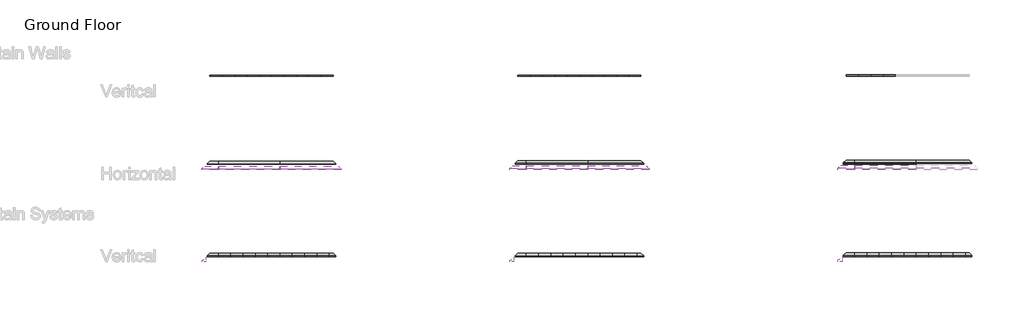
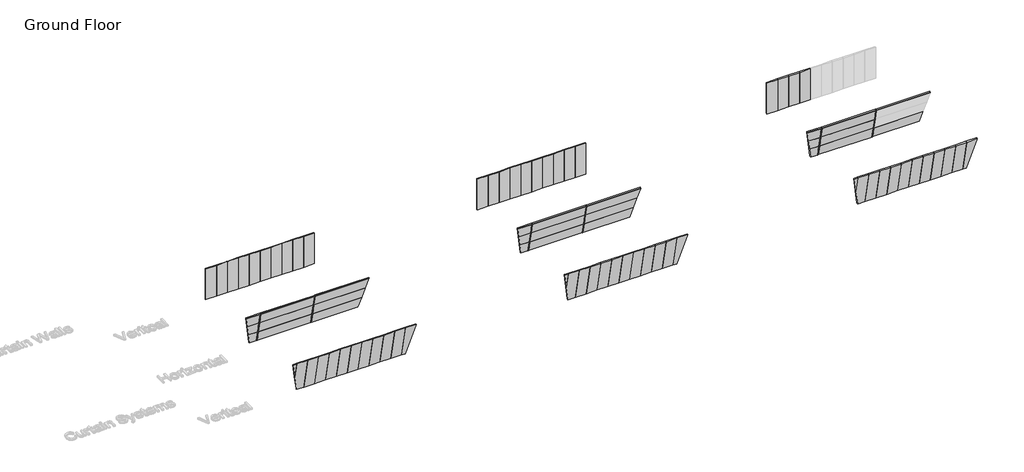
# One storey, part 1 of 7: 94 plates, 24 members.
"""IFC4 building model written with IfcOpenShell, lengths in millimetres."""

from ifc_helpers import new_model, si_unit, origin, place, context, project, spatial, transform, mapped, element, save
from components import rectangular_mullion_pi_mullion_20gap_50depth_70width_142a5764, rectangular_mullion_pi_mullion_20gap_50depth_70width_9113199f, system_panel_276d5853, system_panel_b8428c64, system_panel_244e55d7, system_panel_0e52adfc, system_panel_58bfb996, system_panel_810aceff, system_panel_dae109d1, system_panel_3fc5bacf, system_panel_61ef77c3, system_panel_4a560e26, system_panel_8fc2fa07, system_panel_ffccc5ed, system_panel_a9172ad6, system_panel_276398e4, system_panel_e92a4fb4, system_panel_2d20ec1c, system_panel_2103b3a6, system_panel_ce3216b0, system_panel_0e282976, system_panel_e06f3d7a, system_panel_697395f3, system_panel_573d2014, system_panel_0390bdc7, system_panel_17cfb40a, system_panel_ebee40ae, system_panel_bdb03481, system_panel_a81ec092, system_panel_9f1cbbff, system_panel_110e811f, system_panel_6bba82fc, system_panel_1b485f75, system_panel_cb7dd1a5, system_panel_68652501, system_panel_b922ef73, system_panel_e1c3cb3b, system_panel_d6a9731a, system_panel_ae01b499, system_panel_da9f9245, system_panel_4db2f891, system_panel_0650ad8c, system_panel_78934fff, system_panel_36b0335f, system_panel_72fa3ca7

model = new_model("IFC4")

# Units and contexts
model_context = context("Model", 3, world=origin())
ifc_project = project(units=[si_unit("LENGTHUNIT", "METRE", prefix="MILLI")], contexts=[model_context])

# Site, building, storey
site = spatial("IfcSite", under=ifc_project)
building = spatial("IfcBuilding", under=site)
storey = spatial("IfcBuildingStorey", under=building, Name="Ground Floor", Elevation=0.0)

# Members
placement = place(None, origin())
rectangular_mullion_pi_mullion_20gap_50depth_70width_shape = rectangular_mullion_pi_mullion_20gap_50depth_70width_142a5764(model_context)
element("IfcMember", 1, ObjectType="Rectangular Mullion : PI-Mullion - 20Gap-50Depth-70Width", at=placement, inside=storey, context=model_context, shape_type="MappedRepresentation", body=[
    mapped(rectangular_mullion_pi_mullion_20gap_50depth_70width_shape, transform((-44187.533429, -11236.337246, 3600.0), x_axis=(-1.0, 0.0, 0.0), y_axis=(0.0, -0.978268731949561, -0.20734099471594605), z_axis=(0.0, -0.20734099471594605, 0.978268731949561))),
])
element("IfcMember", 2, ObjectType="Rectangular Mullion : PI-Mullion - 20Gap-50Depth-70Width", at=placement, inside=storey, context=model_context, shape_type="MappedRepresentation", body=[
    mapped(rectangular_mullion_pi_mullion_20gap_50depth_70width_shape, transform((-50187.533429, -11236.337246, 3600.0), x_axis=(-1.0, 0.0, 0.0), y_axis=(0.0, -0.978268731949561, -0.20734099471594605), z_axis=(0.0, -0.20734099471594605, 0.978268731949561))),
])
element("IfcMember", 3, ObjectType="Rectangular Mullion : PI-Mullion - 20Gap-50Depth-70Width", at=placement, inside=storey, context=model_context, shape_type="MappedRepresentation", body=[
    mapped(rectangular_mullion_pi_mullion_20gap_50depth_70width_shape, transform((17812.466571, -11236.337246, 3600.0), x_axis=(-1.0, 0.0, 0.0), y_axis=(0.0, -0.978268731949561, -0.20734099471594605), z_axis=(0.0, -0.20734099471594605, 0.978268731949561))),
])
element("IfcMember", 4, ObjectType="Rectangular Mullion : PI-Mullion - 20Gap-50Depth-70Width", at=placement, inside=storey, context=model_context, shape_type="MappedRepresentation", body=[
    mapped(rectangular_mullion_pi_mullion_20gap_50depth_70width_shape, transform((11812.466571, -11236.337246, 3600.0), x_axis=(-1.0, 0.0, 0.0), y_axis=(0.0, -0.978268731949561, -0.20734099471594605), z_axis=(0.0, -0.20734099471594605, 0.978268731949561))),
])
element("IfcMember", 5, ObjectType="Rectangular Mullion : PI-Mullion - 20Gap-50Depth-70Width", at=placement, inside=storey, context=model_context, shape_type="MappedRepresentation", body=[
    mapped(rectangular_mullion_pi_mullion_20gap_50depth_70width_shape, transform((-14187.533429, -11236.337246, 3600.0), x_axis=(-1.0, 0.0, 0.0), y_axis=(0.0, -0.978268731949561, -0.20734099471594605), z_axis=(0.0, -0.20734099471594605, 0.978268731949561))),
])
element("IfcMember", 6, ObjectType="Rectangular Mullion : PI-Mullion - 20Gap-50Depth-70Width", at=placement, inside=storey, context=model_context, shape_type="MappedRepresentation", body=[
    mapped(rectangular_mullion_pi_mullion_20gap_50depth_70width_shape, transform((-20187.533429, -11236.337246, 3600.0), x_axis=(-1.0, 0.0, 0.0), y_axis=(0.0, -0.978268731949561, -0.20734099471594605), z_axis=(0.0, -0.20734099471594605, 0.978268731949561))),
])
rectangular_mullion_pi_mullion_20gap_50depth_70width_2_shape = rectangular_mullion_pi_mullion_20gap_50depth_70width_9113199f(model_context)
element("IfcMember", 7, ObjectType="Rectangular Mullion : PI-Mullion - 20Gap-50Depth-70Width", at=placement, inside=storey, context=model_context, shape_type="MappedRepresentation", body=[
    mapped(rectangular_mullion_pi_mullion_20gap_50depth_70width_2_shape, transform((-44187.533429, -10722.1377115, 1173.9224783), x_axis=(-1.0, 0.0, 0.0), y_axis=(0.0, -0.9782687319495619, -0.207340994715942), z_axis=(0.0, -0.207340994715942, 0.9782687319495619))),
])
element("IfcMember", 8, ObjectType="Rectangular Mullion : PI-Mullion - 20Gap-50Depth-70Width", at=placement, inside=storey, context=model_context, shape_type="MappedRepresentation", body=[
    mapped(rectangular_mullion_pi_mullion_20gap_50depth_70width_2_shape, transform((-50187.533429, -10722.1377115, 1173.9224783), x_axis=(-1.0, 0.0, 0.0), y_axis=(0.0, -0.9782687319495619, -0.207340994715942), z_axis=(0.0, -0.207340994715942, 0.9782687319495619))),
])
element("IfcMember", 9, ObjectType="Rectangular Mullion : PI-Mullion - 20Gap-50Depth-70Width", at=placement, inside=storey, context=model_context, shape_type="MappedRepresentation", body=[
    mapped(rectangular_mullion_pi_mullion_20gap_50depth_70width_2_shape, transform((17812.466571, -10722.1377115, 1173.9224783), x_axis=(-1.0, 0.0, 0.0), y_axis=(0.0, -0.9782687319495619, -0.207340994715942), z_axis=(0.0, -0.207340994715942, 0.9782687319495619))),
])
element("IfcMember", 10, ObjectType="Rectangular Mullion : PI-Mullion - 20Gap-50Depth-70Width", at=placement, inside=storey, context=model_context, shape_type="MappedRepresentation", body=[
    mapped(rectangular_mullion_pi_mullion_20gap_50depth_70width_2_shape, transform((11812.466571, -10722.1377115, 1173.9224783), x_axis=(-1.0, 0.0, 0.0), y_axis=(0.0, -0.9782687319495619, -0.207340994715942), z_axis=(0.0, -0.207340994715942, 0.9782687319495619))),
])
element("IfcMember", 11, ObjectType="Rectangular Mullion : PI-Mullion - 20Gap-50Depth-70Width", at=placement, inside=storey, context=model_context, shape_type="MappedRepresentation", body=[
    mapped(rectangular_mullion_pi_mullion_20gap_50depth_70width_2_shape, transform((-14187.533429, -10722.1377115, 1173.9224783), x_axis=(-1.0, 0.0, 0.0), y_axis=(0.0, -0.9782687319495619, -0.207340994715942), z_axis=(0.0, -0.207340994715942, 0.9782687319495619))),
])
element("IfcMember", 12, ObjectType="Rectangular Mullion : PI-Mullion - 20Gap-50Depth-70Width", at=placement, inside=storey, context=model_context, shape_type="MappedRepresentation", body=[
    mapped(rectangular_mullion_pi_mullion_20gap_50depth_70width_2_shape, transform((-20187.533429, -10722.1377115, 1173.9224783), x_axis=(-1.0, 0.0, 0.0), y_axis=(0.0, -0.9782687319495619, -0.207340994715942), z_axis=(0.0, -0.207340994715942, 0.9782687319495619))),
])
element("IfcMember", 13, ObjectType="Rectangular Mullion : PI-Mullion - 20Gap-50Depth-70Width", at=placement, inside=storey, context=model_context, shape_type="MappedRepresentation", body=[
    mapped(rectangular_mullion_pi_mullion_20gap_50depth_70width_2_shape, transform((-44187.533429, -10970.9469052, 2347.8449567), x_axis=(-1.0, 0.0, 0.0), y_axis=(0.0, -0.9782687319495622, -0.20734099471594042), z_axis=(0.0, -0.20734099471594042, 0.9782687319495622))),
])
element("IfcMember", 14, ObjectType="Rectangular Mullion : PI-Mullion - 20Gap-50Depth-70Width", at=placement, inside=storey, context=model_context, shape_type="MappedRepresentation", body=[
    mapped(rectangular_mullion_pi_mullion_20gap_50depth_70width_2_shape, transform((-50187.533429, -10970.9469052, 2347.8449567), x_axis=(-1.0, 0.0, 0.0), y_axis=(0.0, -0.9782687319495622, -0.20734099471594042), z_axis=(0.0, -0.20734099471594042, 0.9782687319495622))),
])
element("IfcMember", 15, ObjectType="Rectangular Mullion : PI-Mullion - 20Gap-50Depth-70Width", at=placement, inside=storey, context=model_context, shape_type="MappedRepresentation", body=[
    mapped(rectangular_mullion_pi_mullion_20gap_50depth_70width_2_shape, transform((-44187.533429, -11219.7560988, 3521.767435), x_axis=(-1.0, 0.0, 0.0), y_axis=(0.0, -0.9782687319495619, -0.20734099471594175), z_axis=(0.0, -0.20734099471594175, 0.9782687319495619))),
])
element("IfcMember", 16, ObjectType="Rectangular Mullion : PI-Mullion - 20Gap-50Depth-70Width", at=placement, inside=storey, context=model_context, shape_type="MappedRepresentation", body=[
    mapped(rectangular_mullion_pi_mullion_20gap_50depth_70width_2_shape, transform((-50187.533429, -11219.7560988, 3521.767435), x_axis=(-1.0, 0.0, 0.0), y_axis=(0.0, -0.9782687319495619, -0.20734099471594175), z_axis=(0.0, -0.20734099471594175, 0.9782687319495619))),
])
element("IfcMember", 17, ObjectType="Rectangular Mullion : PI-Mullion - 20Gap-50Depth-70Width", at=placement, inside=storey, context=model_context, shape_type="MappedRepresentation", body=[
    mapped(rectangular_mullion_pi_mullion_20gap_50depth_70width_2_shape, transform((17812.466571, -10970.9469052, 2347.8449567), x_axis=(-1.0, 0.0, 0.0), y_axis=(0.0, -0.9782687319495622, -0.20734099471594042), z_axis=(0.0, -0.20734099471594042, 0.9782687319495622))),
])
element("IfcMember", 18, ObjectType="Rectangular Mullion : PI-Mullion - 20Gap-50Depth-70Width", at=placement, inside=storey, context=model_context, shape_type="MappedRepresentation", body=[
    mapped(rectangular_mullion_pi_mullion_20gap_50depth_70width_2_shape, transform((11812.466571, -10970.9469052, 2347.8449567), x_axis=(-1.0, 0.0, 0.0), y_axis=(0.0, -0.9782687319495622, -0.20734099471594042), z_axis=(0.0, -0.20734099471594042, 0.9782687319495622))),
])
element("IfcMember", 19, ObjectType="Rectangular Mullion : PI-Mullion - 20Gap-50Depth-70Width", at=placement, inside=storey, context=model_context, shape_type="MappedRepresentation", body=[
    mapped(rectangular_mullion_pi_mullion_20gap_50depth_70width_2_shape, transform((17812.466571, -11219.7560988, 3521.767435), x_axis=(-1.0, 0.0, 0.0), y_axis=(0.0, -0.9782687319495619, -0.20734099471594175), z_axis=(0.0, -0.20734099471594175, 0.9782687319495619))),
])
element("IfcMember", 20, ObjectType="Rectangular Mullion : PI-Mullion - 20Gap-50Depth-70Width", at=placement, inside=storey, context=model_context, shape_type="MappedRepresentation", body=[
    mapped(rectangular_mullion_pi_mullion_20gap_50depth_70width_2_shape, transform((11812.466571, -11219.7560988, 3521.767435), x_axis=(-1.0, 0.0, 0.0), y_axis=(0.0, -0.9782687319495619, -0.20734099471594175), z_axis=(0.0, -0.20734099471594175, 0.9782687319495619))),
])
element("IfcMember", 21, ObjectType="Rectangular Mullion : PI-Mullion - 20Gap-50Depth-70Width", at=placement, inside=storey, context=model_context, shape_type="MappedRepresentation", body=[
    mapped(rectangular_mullion_pi_mullion_20gap_50depth_70width_2_shape, transform((-14187.533429, -10970.9469052, 2347.8449567), x_axis=(-1.0, 0.0, 0.0), y_axis=(0.0, -0.9782687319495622, -0.20734099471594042), z_axis=(0.0, -0.20734099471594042, 0.9782687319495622))),
])
element("IfcMember", 22, ObjectType="Rectangular Mullion : PI-Mullion - 20Gap-50Depth-70Width", at=placement, inside=storey, context=model_context, shape_type="MappedRepresentation", body=[
    mapped(rectangular_mullion_pi_mullion_20gap_50depth_70width_2_shape, transform((-20187.533429, -10970.9469052, 2347.8449567), x_axis=(-1.0, 0.0, 0.0), y_axis=(0.0, -0.9782687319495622, -0.20734099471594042), z_axis=(0.0, -0.20734099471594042, 0.9782687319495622))),
])
element("IfcMember", 23, ObjectType="Rectangular Mullion : PI-Mullion - 20Gap-50Depth-70Width", at=placement, inside=storey, context=model_context, shape_type="MappedRepresentation", body=[
    mapped(rectangular_mullion_pi_mullion_20gap_50depth_70width_2_shape, transform((-14187.533429, -11219.7560988, 3521.767435), x_axis=(-1.0, 0.0, 0.0), y_axis=(0.0, -0.9782687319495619, -0.20734099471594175), z_axis=(0.0, -0.20734099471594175, 0.9782687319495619))),
])
element("IfcMember", 24, ObjectType="Rectangular Mullion : PI-Mullion - 20Gap-50Depth-70Width", at=placement, inside=storey, context=model_context, shape_type="MappedRepresentation", body=[
    mapped(rectangular_mullion_pi_mullion_20gap_50depth_70width_2_shape, transform((-20187.533429, -11219.7560988, 3521.767435), x_axis=(-1.0, 0.0, 0.0), y_axis=(0.0, -0.9782687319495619, -0.20734099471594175), z_axis=(0.0, -0.20734099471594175, 0.9782687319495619))),
])

# Plates
system_panel_shape = system_panel_276d5853(model_context)
element("IfcPlate", 25, ObjectType="System Panel : Equitilt 75mm Vertical - Plain RHEA - MW", at=placement, inside=storey, context=model_context, shape_type="MappedRepresentation", body=[
    mapped(system_panel_shape, transform((-38797.533429, -19473.3285178, 0.0), x_axis=(-1.0, 0.0, 0.0), y_axis=(0.0, -0.978268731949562, -0.20734099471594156), z_axis=(0.0, -0.20734099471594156, 0.978268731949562))),
])
system_panel_2_shape = system_panel_b8428c64(model_context)
element("IfcPlate", 26, ObjectType="System Panel : Equitilt 75mm Vertical - Plain RHEA - MW", at=placement, inside=storey, context=model_context, shape_type="MappedRepresentation", body=[
    mapped(system_panel_2_shape, transform((-39997.533429, -19473.3285178, 0.0), x_axis=(-1.0, 0.0, 0.0), y_axis=(0.0, -0.978268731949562, -0.20734099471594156), z_axis=(0.0, -0.20734099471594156, 0.978268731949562))),
])
element("IfcPlate", 27, ObjectType="System Panel : Equitilt 75mm Vertical - Plain RHEA - MW", at=placement, inside=storey, context=model_context, shape_type="MappedRepresentation", body=[
    mapped(system_panel_2_shape, transform((-41197.533429, -19473.3285178, 0.0), x_axis=(-1.0, 0.0, 0.0), y_axis=(0.0, -0.978268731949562, -0.20734099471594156), z_axis=(0.0, -0.20734099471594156, 0.978268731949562))),
])
element("IfcPlate", 28, ObjectType="System Panel : Equitilt 75mm Vertical - Plain RHEA - MW", at=placement, inside=storey, context=model_context, shape_type="MappedRepresentation", body=[
    mapped(system_panel_2_shape, transform((-42397.533429, -19473.3285178, 0.0), x_axis=(-1.0, 0.0, 0.0), y_axis=(0.0, -0.978268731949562, -0.20734099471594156), z_axis=(0.0, -0.20734099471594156, 0.978268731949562))),
])
element("IfcPlate", 29, ObjectType="System Panel : Equitilt 75mm Vertical - Plain RHEA - MW", at=placement, inside=storey, context=model_context, shape_type="MappedRepresentation", body=[
    mapped(system_panel_2_shape, transform((-43597.533429, -19473.3285178, 0.0), x_axis=(-1.0, 0.0, 0.0), y_axis=(0.0, -0.978268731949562, -0.20734099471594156), z_axis=(0.0, -0.20734099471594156, 0.978268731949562))),
])
element("IfcPlate", 30, ObjectType="System Panel : Equitilt 75mm Vertical - Plain RHEA - MW", at=placement, inside=storey, context=model_context, shape_type="MappedRepresentation", body=[
    mapped(system_panel_2_shape, transform((-44797.533429, -19473.3285178, 0.0), x_axis=(-1.0, 0.0, 0.0), y_axis=(0.0, -0.978268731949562, -0.20734099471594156), z_axis=(0.0, -0.20734099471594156, 0.978268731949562))),
])
element("IfcPlate", 31, ObjectType="System Panel : Equitilt 75mm Vertical - Plain RHEA - MW", at=placement, inside=storey, context=model_context, shape_type="MappedRepresentation", body=[
    mapped(system_panel_2_shape, transform((-45997.533429, -19473.3285178, 0.0), x_axis=(-1.0, 0.0, 0.0), y_axis=(0.0, -0.978268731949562, -0.20734099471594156), z_axis=(0.0, -0.20734099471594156, 0.978268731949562))),
])
element("IfcPlate", 32, ObjectType="System Panel : Equitilt 75mm Vertical - Plain RHEA - MW", at=placement, inside=storey, context=model_context, shape_type="MappedRepresentation", body=[
    mapped(system_panel_2_shape, transform((-47197.533429, -19473.3285178, 0.0), x_axis=(-1.0, 0.0, 0.0), y_axis=(0.0, -0.978268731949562, -0.20734099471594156), z_axis=(0.0, -0.20734099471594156, 0.978268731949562))),
])
element("IfcPlate", 33, ObjectType="System Panel : Equitilt 75mm Vertical - Plain RHEA - MW", at=placement, inside=storey, context=model_context, shape_type="MappedRepresentation", body=[
    mapped(system_panel_2_shape, transform((-48397.533429, -19473.3285178, 0.0), x_axis=(-1.0, 0.0, 0.0), y_axis=(0.0, -0.978268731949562, -0.20734099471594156), z_axis=(0.0, -0.20734099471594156, 0.978268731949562))),
])
element("IfcPlate", 34, ObjectType="System Panel : Equitilt 75mm Vertical - Plain RHEA - MW", at=placement, inside=storey, context=model_context, shape_type="MappedRepresentation", body=[
    mapped(system_panel_2_shape, transform((-49597.533429, -19473.3285178, 0.0), x_axis=(-1.0, 0.0, 0.0), y_axis=(0.0, -0.978268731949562, -0.20734099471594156), z_axis=(0.0, -0.20734099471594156, 0.978268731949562))),
])
system_panel_3_shape = system_panel_244e55d7(model_context)
element("IfcPlate", 35, ObjectType="System Panel : Equitilt 75mm Vertical - Plain RHEA - MW", at=placement, inside=storey, context=model_context, shape_type="MappedRepresentation", body=[
    mapped(system_panel_3_shape, transform((-50797.533429, -19473.3285178, 0.0), x_axis=(-1.0, 0.0, 0.0), y_axis=(0.0, -0.978268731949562, -0.20734099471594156), z_axis=(0.0, -0.20734099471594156, 0.978268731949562))),
])
system_panel_4_shape = system_panel_0e52adfc(model_context)
element("IfcPlate", 36, ObjectType="System Panel : Equitilt 75mm Vertical - Plain RHEA - MW", at=placement, inside=storey, context=model_context, shape_type="MappedRepresentation", body=[
    mapped(system_panel_4_shape, transform((-51597.533429, -19854.8328819, 1800.0), x_axis=(-1.0, 0.0, 0.0), y_axis=(0.0, -0.978268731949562, -0.20734099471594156), z_axis=(0.0, -0.20734099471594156, 0.978268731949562))),
])
system_panel_5_shape = system_panel_58bfb996(model_context)
element("IfcPlate", 37, ObjectType="System Panel : Equitilt 100mm Horizontal - Plain RHEA - MW", at=placement, inside=storey, context=model_context, shape_type="MappedRepresentation", body=[
    mapped(system_panel_5_shape, transform((-17187.533429, -10473.3285178, 0.0), x_axis=(-1.0, 0.0, 0.0), y_axis=(0.0, -0.978268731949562, -0.20734099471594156), z_axis=(0.0, -0.20734099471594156, 0.978268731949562))),
])
element("IfcPlate", 38, ObjectType="System Panel : Equitilt 100mm Horizontal - Plain RHEA - MW", at=placement, inside=storey, context=model_context, shape_type="MappedRepresentation", body=[
    mapped(system_panel_5_shape, transform((-17187.533429, -10722.1377115, 1173.9224783), x_axis=(-1.0, 0.0, 0.0), y_axis=(0.0, -0.978268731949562, -0.20734099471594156), z_axis=(0.0, -0.20734099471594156, 0.978268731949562))),
])
element("IfcPlate", 39, ObjectType="System Panel : Equitilt 100mm Horizontal - Plain RHEA - MW", at=placement, inside=storey, context=model_context, shape_type="MappedRepresentation", body=[
    mapped(system_panel_5_shape, transform((-17187.533429, -10970.9469052, 2347.8449567), x_axis=(-1.0, 0.0, 0.0), y_axis=(0.0, -0.978268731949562, -0.20734099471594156), z_axis=(0.0, -0.20734099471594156, 0.978268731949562))),
])
system_panel_6_shape = system_panel_810aceff(model_context)
element("IfcPlate", 40, ObjectType="System Panel : Equitilt 100mm Horizontal - Plain RHEA - MW", at=placement, inside=storey, context=model_context, shape_type="MappedRepresentation", body=[
    mapped(system_panel_6_shape, transform((-17187.533429, -11219.7560988, 3521.767435), x_axis=(-1.0, 0.0, 0.0), y_axis=(0.0, -0.978268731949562, -0.20734099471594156), z_axis=(0.0, -0.20734099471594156, 0.978268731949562))),
])
system_panel_7_shape = system_panel_dae109d1(model_context)
element("IfcPlate", 41, ObjectType="System Panel : Equitilt 75mm Horizontal - Plain RHEA - MW", at=placement, inside=storey, context=model_context, shape_type="MappedRepresentation", body=[
    mapped(system_panel_7_shape, transform((-41457.097598, -10473.3285178, 0.0), x_axis=(-1.0, 0.0, 0.0), y_axis=(0.0, -0.978268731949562, -0.20734099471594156), z_axis=(0.0, -0.20734099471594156, 0.978268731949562))),
])
system_panel_8_shape = system_panel_3fc5bacf(model_context)
element("IfcPlate", 42, ObjectType="System Panel : Equitilt 75mm Horizontal - Plain RHEA - MW", at=placement, inside=storey, context=model_context, shape_type="MappedRepresentation", body=[
    mapped(system_panel_8_shape, transform((-47187.533429, -10473.3285178, 0.0), x_axis=(-1.0, 0.0, 0.0), y_axis=(0.0, -0.978268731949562, -0.20734099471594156), z_axis=(0.0, -0.20734099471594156, 0.978268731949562))),
])
element("IfcPlate", 43, ObjectType="System Panel : Equitilt 75mm Horizontal - Plain RHEA - MW", at=placement, inside=storey, context=model_context, shape_type="MappedRepresentation", body=[
    mapped(system_panel_8_shape, transform((-47187.533429, -10722.1377115, 1173.9224783), x_axis=(-1.0, 0.0, 0.0), y_axis=(0.0, -0.978268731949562, -0.20734099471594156), z_axis=(0.0, -0.20734099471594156, 0.978268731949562))),
])
element("IfcPlate", 44, ObjectType="System Panel : Equitilt 75mm Horizontal - Plain RHEA - MW", at=placement, inside=storey, context=model_context, shape_type="MappedRepresentation", body=[
    mapped(system_panel_8_shape, transform((-47187.533429, -10970.9469052, 2347.8449567), x_axis=(-1.0, 0.0, 0.0), y_axis=(0.0, -0.978268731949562, -0.20734099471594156), z_axis=(0.0, -0.20734099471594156, 0.978268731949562))),
])
system_panel_9_shape = system_panel_61ef77c3(model_context)
element("IfcPlate", 45, ObjectType="System Panel : Equitilt 75mm Horizontal - Plain RHEA - MW", at=placement, inside=storey, context=model_context, shape_type="MappedRepresentation", body=[
    mapped(system_panel_9_shape, transform((-50727.9692599, -10473.3285178, 0.0), x_axis=(-1.0, 0.0, 0.0), y_axis=(0.0, -0.978268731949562, -0.20734099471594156), z_axis=(0.0, -0.20734099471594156, 0.978268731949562))),
])
system_panel_10_shape = system_panel_4a560e26(model_context)
element("IfcPlate", 46, ObjectType="System Panel : Equitilt 75mm Horizontal - Plain RHEA - MW", at=placement, inside=storey, context=model_context, shape_type="MappedRepresentation", body=[
    mapped(system_panel_10_shape, transform((-41326.6617671, -10722.1377115, 1173.9224783), x_axis=(-1.0, 0.0, 0.0), y_axis=(0.0, -0.978268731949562, -0.20734099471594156), z_axis=(0.0, -0.20734099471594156, 0.978268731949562))),
])
system_panel_11_shape = system_panel_8fc2fa07(model_context)
element("IfcPlate", 47, ObjectType="System Panel : Equitilt 75mm Horizontal - Plain RHEA - MW", at=placement, inside=storey, context=model_context, shape_type="MappedRepresentation", body=[
    mapped(system_panel_11_shape, transform((-50858.4050908, -10722.1377115, 1173.9224783), x_axis=(-1.0, 0.0, 0.0), y_axis=(0.0, -0.978268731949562, -0.20734099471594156), z_axis=(0.0, -0.20734099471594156, 0.978268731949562))),
])
system_panel_12_shape = system_panel_ffccc5ed(model_context)
element("IfcPlate", 48, ObjectType="System Panel : Equitilt 75mm Horizontal - Plain RHEA - MW", at=placement, inside=storey, context=model_context, shape_type="MappedRepresentation", body=[
    mapped(system_panel_12_shape, transform((-41196.2259362, -10970.9469052, 2347.8449567), x_axis=(-1.0, 0.0, 0.0), y_axis=(0.0, -0.978268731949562, -0.20734099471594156), z_axis=(0.0, -0.20734099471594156, 0.978268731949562))),
])
system_panel_13_shape = system_panel_a9172ad6(model_context)
element("IfcPlate", 49, ObjectType="System Panel : Equitilt 75mm Horizontal - Plain RHEA - MW", at=placement, inside=storey, context=model_context, shape_type="MappedRepresentation", body=[
    mapped(system_panel_13_shape, transform((-50988.8409217, -10970.9469052, 2347.8449567), x_axis=(-1.0, 0.0, 0.0), y_axis=(0.0, -0.978268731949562, -0.20734099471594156), z_axis=(0.0, -0.20734099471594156, 0.978268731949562))),
])
system_panel_14_shape = system_panel_276398e4(model_context)
element("IfcPlate", 50, ObjectType="System Panel : Equitilt 75mm Horizontal - Plain RHEA - MW", at=placement, inside=storey, context=model_context, shape_type="MappedRepresentation", body=[
    mapped(system_panel_14_shape, transform((-41187.533429, -11219.7560988, 3521.767435), x_axis=(-1.0, 0.0, 0.0), y_axis=(0.0, -0.978268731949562, -0.20734099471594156), z_axis=(0.0, -0.20734099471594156, 0.978268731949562))),
])
system_panel_15_shape = system_panel_e92a4fb4(model_context)
element("IfcPlate", 51, ObjectType="System Panel : Equitilt 75mm Horizontal - Plain RHEA - MW", at=placement, inside=storey, context=model_context, shape_type="MappedRepresentation", body=[
    mapped(system_panel_15_shape, transform((-47187.533429, -11219.7560988, 3521.767435), x_axis=(-1.0, 0.0, 0.0), y_axis=(0.0, -0.978268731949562, -0.20734099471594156), z_axis=(0.0, -0.20734099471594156, 0.978268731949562))),
])
system_panel_16_shape = system_panel_2d20ec1c(model_context)
element("IfcPlate", 52, ObjectType="System Panel : Equitilt 75mm Horizontal - Plain RHEA - MW", at=placement, inside=storey, context=model_context, shape_type="MappedRepresentation", body=[
    mapped(system_panel_16_shape, transform((-50997.533429, -11219.7560988, 3521.767435), x_axis=(-1.0, 0.0, 0.0), y_axis=(0.0, -0.978268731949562, -0.20734099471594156), z_axis=(0.0, -0.20734099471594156, 0.978268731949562))),
])
system_panel_17_shape = system_panel_2103b3a6(model_context)
element("IfcPlate", 53, ObjectType="System Panel : Equitilt 100mm Vertical - Plain RHEA - MW", at=placement, inside=storey, context=model_context, shape_type="MappedRepresentation", body=[
    mapped(system_panel_17_shape, transform((-8797.533429, -19473.3285178, 0.0), x_axis=(-1.0, 0.0, 0.0), y_axis=(0.0, -0.978268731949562, -0.20734099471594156), z_axis=(0.0, -0.20734099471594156, 0.978268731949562))),
])
system_panel_18_shape = system_panel_ce3216b0(model_context)
element("IfcPlate", 54, ObjectType="System Panel : Equitilt 100mm Vertical - Plain RHEA - MW", at=placement, inside=storey, context=model_context, shape_type="MappedRepresentation", body=[
    mapped(system_panel_18_shape, transform((-9997.533429, -19473.3285178, 0.0), x_axis=(-1.0, 0.0, 0.0), y_axis=(0.0, -0.978268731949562, -0.20734099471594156), z_axis=(0.0, -0.20734099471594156, 0.978268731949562))),
])
element("IfcPlate", 55, ObjectType="System Panel : Equitilt 100mm Vertical - Plain RHEA - MW", at=placement, inside=storey, context=model_context, shape_type="MappedRepresentation", body=[
    mapped(system_panel_18_shape, transform((-11197.533429, -19473.3285178, 0.0), x_axis=(-1.0, 0.0, 0.0), y_axis=(0.0, -0.978268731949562, -0.20734099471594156), z_axis=(0.0, -0.20734099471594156, 0.978268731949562))),
])
element("IfcPlate", 56, ObjectType="System Panel : Equitilt 100mm Vertical - Plain RHEA - MW", at=placement, inside=storey, context=model_context, shape_type="MappedRepresentation", body=[
    mapped(system_panel_18_shape, transform((-12397.533429, -19473.3285178, 0.0), x_axis=(-1.0, 0.0, 0.0), y_axis=(0.0, -0.978268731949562, -0.20734099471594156), z_axis=(0.0, -0.20734099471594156, 0.978268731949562))),
])
element("IfcPlate", 57, ObjectType="System Panel : Equitilt 100mm Vertical - Plain RHEA - MW", at=placement, inside=storey, context=model_context, shape_type="MappedRepresentation", body=[
    mapped(system_panel_18_shape, transform((-13597.533429, -19473.3285178, 0.0), x_axis=(-1.0, 0.0, 0.0), y_axis=(0.0, -0.978268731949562, -0.20734099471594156), z_axis=(0.0, -0.20734099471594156, 0.978268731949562))),
])
element("IfcPlate", 58, ObjectType="System Panel : Equitilt 100mm Vertical - Plain RHEA - MW", at=placement, inside=storey, context=model_context, shape_type="MappedRepresentation", body=[
    mapped(system_panel_18_shape, transform((-14797.533429, -19473.3285178, 0.0), x_axis=(-1.0, 0.0, 0.0), y_axis=(0.0, -0.978268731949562, -0.20734099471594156), z_axis=(0.0, -0.20734099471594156, 0.978268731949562))),
])
element("IfcPlate", 59, ObjectType="System Panel : Equitilt 100mm Vertical - Plain RHEA - MW", at=placement, inside=storey, context=model_context, shape_type="MappedRepresentation", body=[
    mapped(system_panel_18_shape, transform((-15997.533429, -19473.3285178, 0.0), x_axis=(-1.0, 0.0, 0.0), y_axis=(0.0, -0.978268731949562, -0.20734099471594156), z_axis=(0.0, -0.20734099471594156, 0.978268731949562))),
])
element("IfcPlate", 60, ObjectType="System Panel : Equitilt 100mm Vertical - Plain RHEA - MW", at=placement, inside=storey, context=model_context, shape_type="MappedRepresentation", body=[
    mapped(system_panel_18_shape, transform((-17197.533429, -19473.3285178, 0.0), x_axis=(-1.0, 0.0, 0.0), y_axis=(0.0, -0.978268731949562, -0.20734099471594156), z_axis=(0.0, -0.20734099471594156, 0.978268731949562))),
])
element("IfcPlate", 61, ObjectType="System Panel : Equitilt 100mm Vertical - Plain RHEA - MW", at=placement, inside=storey, context=model_context, shape_type="MappedRepresentation", body=[
    mapped(system_panel_18_shape, transform((-18397.533429, -19473.3285178, 0.0), x_axis=(-1.0, 0.0, 0.0), y_axis=(0.0, -0.978268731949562, -0.20734099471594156), z_axis=(0.0, -0.20734099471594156, 0.978268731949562))),
])
element("IfcPlate", 62, ObjectType="System Panel : Equitilt 100mm Vertical - Plain RHEA - MW", at=placement, inside=storey, context=model_context, shape_type="MappedRepresentation", body=[
    mapped(system_panel_18_shape, transform((-19597.533429, -19473.3285178, 0.0), x_axis=(-1.0, 0.0, 0.0), y_axis=(0.0, -0.978268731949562, -0.20734099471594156), z_axis=(0.0, -0.20734099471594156, 0.978268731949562))),
])
system_panel_19_shape = system_panel_0e282976(model_context)
element("IfcPlate", 63, ObjectType="System Panel : Equitilt 100mm Vertical - Plain RHEA - MW", at=placement, inside=storey, context=model_context, shape_type="MappedRepresentation", body=[
    mapped(system_panel_19_shape, transform((-20797.533429, -19473.3285178, 0.0), x_axis=(-1.0, 0.0, 0.0), y_axis=(0.0, -0.978268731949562, -0.20734099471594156), z_axis=(0.0, -0.20734099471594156, 0.978268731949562))),
])
system_panel_20_shape = system_panel_e06f3d7a(model_context)
element("IfcPlate", 64, ObjectType="System Panel : Equitilt 100mm Vertical - Plain RHEA - MW", at=placement, inside=storey, context=model_context, shape_type="MappedRepresentation", body=[
    mapped(system_panel_20_shape, transform((-21597.533429, -19854.8328819, 1800.0), x_axis=(-1.0, 0.0, 0.0), y_axis=(0.0, -0.978268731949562, -0.20734099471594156), z_axis=(0.0, -0.20734099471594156, 0.978268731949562))),
])
system_panel_21_shape = system_panel_697395f3(model_context)
element("IfcPlate", 65, ObjectType="System Panel : Equitilt 150mm Horizontal - Plain RHEA - MW", at=placement, inside=storey, context=model_context, shape_type="MappedRepresentation", body=[
    mapped(system_panel_21_shape, transform((20542.902402, -10473.3285178, 0.0), x_axis=(-1.0, 0.0, 0.0), y_axis=(0.0, -0.978268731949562, -0.20734099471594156), z_axis=(0.0, -0.20734099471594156, 0.978268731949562))),
])
system_panel_22_shape = system_panel_573d2014(model_context)
element("IfcPlate", 66, ObjectType="System Panel : Equitilt 150mm Horizontal - Plain RHEA - MW", at=placement, inside=storey, context=model_context, shape_type="MappedRepresentation", body=[
    mapped(system_panel_22_shape, transform((14812.466571, -10473.3285178, 0.0), x_axis=(-1.0, 0.0, 0.0), y_axis=(0.0, -0.978268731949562, -0.20734099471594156), z_axis=(0.0, -0.20734099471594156, 0.978268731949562))),
])
element("IfcPlate", 67, ObjectType="System Panel : Equitilt 150mm Horizontal - Plain RHEA - MW", at=placement, inside=storey, context=model_context, shape_type="MappedRepresentation", body=[
    mapped(system_panel_22_shape, transform((14812.466571, -10722.1377115, 1173.9224783), x_axis=(-1.0, 0.0, 0.0), y_axis=(0.0, -0.978268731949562, -0.20734099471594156), z_axis=(0.0, -0.20734099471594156, 0.978268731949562))),
])
element("IfcPlate", 68, ObjectType="System Panel : Equitilt 150mm Horizontal - Plain RHEA - MW", at=placement, inside=storey, context=model_context, shape_type="MappedRepresentation", body=[
    mapped(system_panel_22_shape, transform((14812.466571, -10970.9469052, 2347.8449567), x_axis=(-1.0, 0.0, 0.0), y_axis=(0.0, -0.978268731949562, -0.20734099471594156), z_axis=(0.0, -0.20734099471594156, 0.978268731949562))),
])
system_panel_23_shape = system_panel_0390bdc7(model_context)
element("IfcPlate", 69, ObjectType="System Panel : Equitilt 150mm Horizontal - Plain RHEA - MW", at=placement, inside=storey, context=model_context, shape_type="MappedRepresentation", body=[
    mapped(system_panel_23_shape, transform((11272.0307401, -10473.3285178, 0.0), x_axis=(-1.0, 0.0, 0.0), y_axis=(0.0, -0.978268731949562, -0.20734099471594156), z_axis=(0.0, -0.20734099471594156, 0.978268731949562))),
])
system_panel_24_shape = system_panel_17cfb40a(model_context)
element("IfcPlate", 70, ObjectType="System Panel : Equitilt 150mm Horizontal - Plain RHEA - MW", at=placement, inside=storey, context=model_context, shape_type="MappedRepresentation", body=[
    mapped(system_panel_24_shape, transform((11141.5949092, -10722.1377115, 1173.9224783), x_axis=(-1.0, 0.0, 0.0), y_axis=(0.0, -0.978268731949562, -0.20734099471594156), z_axis=(0.0, -0.20734099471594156, 0.978268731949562))),
])
system_panel_25_shape = system_panel_ebee40ae(model_context)
element("IfcPlate", 71, ObjectType="System Panel : Equitilt 150mm Horizontal - Plain RHEA - MW", at=placement, inside=storey, context=model_context, shape_type="MappedRepresentation", body=[
    mapped(system_panel_25_shape, transform((11011.1590783, -10970.9469052, 2347.8449567), x_axis=(-1.0, 0.0, 0.0), y_axis=(0.0, -0.978268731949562, -0.20734099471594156), z_axis=(0.0, -0.20734099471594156, 0.978268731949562))),
])
system_panel_26_shape = system_panel_bdb03481(model_context)
element("IfcPlate", 72, ObjectType="System Panel : Equitilt 150mm Horizontal - Plain RHEA - MW", at=placement, inside=storey, context=model_context, shape_type="MappedRepresentation", body=[
    mapped(system_panel_26_shape, transform((20812.466571, -11219.7560988, 3521.767435), x_axis=(-1.0, 0.0, 0.0), y_axis=(0.0, -0.978268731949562, -0.20734099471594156), z_axis=(0.0, -0.20734099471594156, 0.978268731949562))),
])
system_panel_27_shape = system_panel_a81ec092(model_context)
element("IfcPlate", 73, ObjectType="System Panel : Equitilt 150mm Horizontal - Plain RHEA - MW", at=placement, inside=storey, context=model_context, shape_type="MappedRepresentation", body=[
    mapped(system_panel_27_shape, transform((14812.466571, -11219.7560988, 3521.767435), x_axis=(-1.0, 0.0, 0.0), y_axis=(0.0, -0.978268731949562, -0.20734099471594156), z_axis=(0.0, -0.20734099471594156, 0.978268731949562))),
])
system_panel_28_shape = system_panel_9f1cbbff(model_context)
element("IfcPlate", 74, ObjectType="System Panel : Equitilt 150mm Horizontal - Plain RHEA - MW", at=placement, inside=storey, context=model_context, shape_type="MappedRepresentation", body=[
    mapped(system_panel_28_shape, transform((11002.466571, -11219.7560988, 3521.767435), x_axis=(-1.0, 0.0, 0.0), y_axis=(0.0, -0.978268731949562, -0.20734099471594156), z_axis=(0.0, -0.20734099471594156, 0.978268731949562))),
])
system_panel_29_shape = system_panel_110e811f(model_context)
element("IfcPlate", 75, ObjectType="System Panel : Equitilt 150mm Vertical - Plain RHEA - MW", at=placement, inside=storey, context=model_context, shape_type="MappedRepresentation", body=[
    mapped(system_panel_29_shape, transform((23202.466571, -19473.3285178, 0.0), x_axis=(-1.0, 0.0, 0.0), y_axis=(0.0, -0.978268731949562, -0.20734099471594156), z_axis=(0.0, -0.20734099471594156, 0.978268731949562))),
])
system_panel_30_shape = system_panel_6bba82fc(model_context)
element("IfcPlate", 76, ObjectType="System Panel : Equitilt 150mm Vertical - Plain RHEA - MW", at=placement, inside=storey, context=model_context, shape_type="MappedRepresentation", body=[
    mapped(system_panel_30_shape, transform((22002.466571, -19473.3285178, 0.0), x_axis=(-1.0, 0.0, 0.0), y_axis=(0.0, -0.978268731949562, -0.20734099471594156), z_axis=(0.0, -0.20734099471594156, 0.978268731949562))),
])
element("IfcPlate", 77, ObjectType="System Panel : Equitilt 150mm Vertical - Plain RHEA - MW", at=placement, inside=storey, context=model_context, shape_type="MappedRepresentation", body=[
    mapped(system_panel_30_shape, transform((20802.466571, -19473.3285178, 0.0), x_axis=(-1.0, 0.0, 0.0), y_axis=(0.0, -0.978268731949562, -0.20734099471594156), z_axis=(0.0, -0.20734099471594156, 0.978268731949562))),
])
element("IfcPlate", 78, ObjectType="System Panel : Equitilt 150mm Vertical - Plain RHEA - MW", at=placement, inside=storey, context=model_context, shape_type="MappedRepresentation", body=[
    mapped(system_panel_30_shape, transform((19602.466571, -19473.3285178, 0.0), x_axis=(-1.0, 0.0, 0.0), y_axis=(0.0, -0.978268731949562, -0.20734099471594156), z_axis=(0.0, -0.20734099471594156, 0.978268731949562))),
])
element("IfcPlate", 79, ObjectType="System Panel : Equitilt 150mm Vertical - Plain RHEA - MW", at=placement, inside=storey, context=model_context, shape_type="MappedRepresentation", body=[
    mapped(system_panel_30_shape, transform((18402.466571, -19473.3285178, 0.0), x_axis=(-1.0, 0.0, 0.0), y_axis=(0.0, -0.978268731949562, -0.20734099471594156), z_axis=(0.0, -0.20734099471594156, 0.978268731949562))),
])
element("IfcPlate", 80, ObjectType="System Panel : Equitilt 150mm Vertical - Plain RHEA - MW", at=placement, inside=storey, context=model_context, shape_type="MappedRepresentation", body=[
    mapped(system_panel_30_shape, transform((17202.466571, -19473.3285178, 0.0), x_axis=(-1.0, 0.0, 0.0), y_axis=(0.0, -0.978268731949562, -0.20734099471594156), z_axis=(0.0, -0.20734099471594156, 0.978268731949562))),
])
element("IfcPlate", 81, ObjectType="System Panel : Equitilt 150mm Vertical - Plain RHEA - MW", at=placement, inside=storey, context=model_context, shape_type="MappedRepresentation", body=[
    mapped(system_panel_30_shape, transform((16002.466571, -19473.3285178, 0.0), x_axis=(-1.0, 0.0, 0.0), y_axis=(0.0, -0.978268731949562, -0.20734099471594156), z_axis=(0.0, -0.20734099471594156, 0.978268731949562))),
])
element("IfcPlate", 82, ObjectType="System Panel : Equitilt 150mm Vertical - Plain RHEA - MW", at=placement, inside=storey, context=model_context, shape_type="MappedRepresentation", body=[
    mapped(system_panel_30_shape, transform((14802.466571, -19473.3285178, 0.0), x_axis=(-1.0, 0.0, 0.0), y_axis=(0.0, -0.978268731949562, -0.20734099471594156), z_axis=(0.0, -0.20734099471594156, 0.978268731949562))),
])
element("IfcPlate", 83, ObjectType="System Panel : Equitilt 150mm Vertical - Plain RHEA - MW", at=placement, inside=storey, context=model_context, shape_type="MappedRepresentation", body=[
    mapped(system_panel_30_shape, transform((13602.466571, -19473.3285178, 0.0), x_axis=(-1.0, 0.0, 0.0), y_axis=(0.0, -0.978268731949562, -0.20734099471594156), z_axis=(0.0, -0.20734099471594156, 0.978268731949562))),
])
element("IfcPlate", 84, ObjectType="System Panel : Equitilt 150mm Vertical - Plain RHEA - MW", at=placement, inside=storey, context=model_context, shape_type="MappedRepresentation", body=[
    mapped(system_panel_30_shape, transform((12402.466571, -19473.3285178, 0.0), x_axis=(-1.0, 0.0, 0.0), y_axis=(0.0, -0.978268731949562, -0.20734099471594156), z_axis=(0.0, -0.20734099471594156, 0.978268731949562))),
])
system_panel_31_shape = system_panel_1b485f75(model_context)
element("IfcPlate", 85, ObjectType="System Panel : Equitilt 150mm Vertical - Plain RHEA - MW", at=placement, inside=storey, context=model_context, shape_type="MappedRepresentation", body=[
    mapped(system_panel_31_shape, transform((11202.466571, -19473.3285178, 0.0), x_axis=(-1.0, 0.0, 0.0), y_axis=(0.0, -0.978268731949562, -0.20734099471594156), z_axis=(0.0, -0.20734099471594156, 0.978268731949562))),
])
system_panel_32_shape = system_panel_cb7dd1a5(model_context)
element("IfcPlate", 86, ObjectType="System Panel : Equitilt 150mm Vertical - Plain RHEA - MW", at=placement, inside=storey, context=model_context, shape_type="MappedRepresentation", body=[
    mapped(system_panel_32_shape, transform((10402.466571, -19854.8328819, 1800.0), x_axis=(-1.0, 0.0, 0.0), y_axis=(0.0, -0.978268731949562, -0.20734099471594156), z_axis=(0.0, -0.20734099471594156, 0.978268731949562))),
])
system_panel_33_shape = system_panel_68652501(model_context)
element("IfcPlate", 87, ObjectType="System Panel : Equitilt 100mm Horizontal - Plain RHEA - MW", at=placement, inside=storey, context=model_context, shape_type="MappedRepresentation", body=[
    mapped(system_panel_33_shape, transform((-11457.097598, -10473.3285178, 0.0), x_axis=(-1.0, 0.0, 0.0), y_axis=(0.0, -0.978268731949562, -0.20734099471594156), z_axis=(0.0, -0.20734099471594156, 0.978268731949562))),
])
system_panel_34_shape = system_panel_b922ef73(model_context)
element("IfcPlate", 88, ObjectType="System Panel : Equitilt 100mm Horizontal - Plain RHEA - MW", at=placement, inside=storey, context=model_context, shape_type="MappedRepresentation", body=[
    mapped(system_panel_34_shape, transform((-20727.9692599, -10473.3285178, 0.0), x_axis=(-1.0, 0.0, 0.0), y_axis=(0.0, -0.978268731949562, -0.20734099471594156), z_axis=(0.0, -0.20734099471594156, 0.978268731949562))),
])
system_panel_35_shape = system_panel_e1c3cb3b(model_context)
element("IfcPlate", 89, ObjectType="System Panel : Equitilt 100mm Horizontal - Plain RHEA - MW", at=placement, inside=storey, context=model_context, shape_type="MappedRepresentation", body=[
    mapped(system_panel_35_shape, transform((-11326.6617671, -10722.1377115, 1173.9224783), x_axis=(-1.0, 0.0, 0.0), y_axis=(0.0, -0.978268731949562, -0.20734099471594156), z_axis=(0.0, -0.20734099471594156, 0.978268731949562))),
])
system_panel_36_shape = system_panel_d6a9731a(model_context)
element("IfcPlate", 90, ObjectType="System Panel : Equitilt 100mm Horizontal - Plain RHEA - MW", at=placement, inside=storey, context=model_context, shape_type="MappedRepresentation", body=[
    mapped(system_panel_36_shape, transform((-20858.4050908, -10722.1377115, 1173.9224783), x_axis=(-1.0, 0.0, 0.0), y_axis=(0.0, -0.978268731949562, -0.20734099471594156), z_axis=(0.0, -0.20734099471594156, 0.978268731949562))),
])
system_panel_37_shape = system_panel_ae01b499(model_context)
element("IfcPlate", 91, ObjectType="System Panel : Equitilt 100mm Horizontal - Plain RHEA - MW", at=placement, inside=storey, context=model_context, shape_type="MappedRepresentation", body=[
    mapped(system_panel_37_shape, transform((-11196.2259362, -10970.9469052, 2347.8449567), x_axis=(-1.0, 0.0, 0.0), y_axis=(0.0, -0.978268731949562, -0.20734099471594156), z_axis=(0.0, -0.20734099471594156, 0.978268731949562))),
])
system_panel_38_shape = system_panel_da9f9245(model_context)
element("IfcPlate", 92, ObjectType="System Panel : Equitilt 100mm Horizontal - Plain RHEA - MW", at=placement, inside=storey, context=model_context, shape_type="MappedRepresentation", body=[
    mapped(system_panel_38_shape, transform((-20988.8409217, -10970.9469052, 2347.8449567), x_axis=(-1.0, 0.0, 0.0), y_axis=(0.0, -0.978268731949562, -0.20734099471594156), z_axis=(0.0, -0.20734099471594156, 0.978268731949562))),
])
system_panel_39_shape = system_panel_4db2f891(model_context)
element("IfcPlate", 93, ObjectType="System Panel : Equitilt 100mm Horizontal - Plain RHEA - MW", at=placement, inside=storey, context=model_context, shape_type="MappedRepresentation", body=[
    mapped(system_panel_39_shape, transform((-11187.533429, -11219.7560988, 3521.767435), x_axis=(-1.0, 0.0, 0.0), y_axis=(0.0, -0.978268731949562, -0.20734099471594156), z_axis=(0.0, -0.20734099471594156, 0.978268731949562))),
])
system_panel_40_shape = system_panel_0650ad8c(model_context)
element("IfcPlate", 94, ObjectType="System Panel : Equitilt 100mm Horizontal - Plain RHEA - MW", at=placement, inside=storey, context=model_context, shape_type="MappedRepresentation", body=[
    mapped(system_panel_40_shape, transform((-20997.533429, -11219.7560988, 3521.767435), x_axis=(-1.0, 0.0, 0.0), y_axis=(0.0, -0.978268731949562, -0.20734099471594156), z_axis=(0.0, -0.20734099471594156, 0.978268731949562))),
])
system_panel_41_shape = system_panel_78934fff(model_context)
element("IfcPlate", 95, ObjectType="System Panel : Equitilt 100mm Vertical - Plain RHEA - MW", at=placement, inside=storey, context=model_context, shape_type="MappedRepresentation", body=[
    mapped(system_panel_41_shape, transform((-20397.533429, -2133.3285178, 0.0), x_axis=(1.0, 0.0, 0.0), y_axis=(0.0, 1.0, 0.0), z_axis=(0.0, 0.0, 1.0))),
])
element("IfcPlate", 96, ObjectType="System Panel : Equitilt 100mm Vertical - Plain RHEA - MW", at=placement, inside=storey, context=model_context, shape_type="MappedRepresentation", body=[
    mapped(system_panel_41_shape, transform((-17997.533429, -2133.3285178, 0.0), x_axis=(1.0, 0.0, 0.0), y_axis=(0.0, 1.0, 0.0), z_axis=(0.0, 0.0, 1.0))),
])
element("IfcPlate", 97, ObjectType="System Panel : Equitilt 100mm Vertical - Plain RHEA - MW", at=placement, inside=storey, context=model_context, shape_type="MappedRepresentation", body=[
    mapped(system_panel_41_shape, transform((-16797.533429, -2133.3285178, 0.0), x_axis=(1.0, 0.0, 0.0), y_axis=(0.0, 1.0, 0.0), z_axis=(0.0, 0.0, 1.0))),
])
element("IfcPlate", 98, ObjectType="System Panel : Equitilt 100mm Vertical - Plain RHEA - MW", at=placement, inside=storey, context=model_context, shape_type="MappedRepresentation", body=[
    mapped(system_panel_41_shape, transform((-15597.533429, -2133.3285178, 0.0), x_axis=(1.0, 0.0, 0.0), y_axis=(0.0, 1.0, 0.0), z_axis=(0.0, 0.0, 1.0))),
])
element("IfcPlate", 99, ObjectType="System Panel : Equitilt 100mm Vertical - Plain RHEA - MW", at=placement, inside=storey, context=model_context, shape_type="MappedRepresentation", body=[
    mapped(system_panel_41_shape, transform((-14397.533429, -2133.3285178, 0.0), x_axis=(1.0, 0.0, 0.0), y_axis=(0.0, 1.0, 0.0), z_axis=(0.0, 0.0, 1.0))),
])
element("IfcPlate", 100, ObjectType="System Panel : Equitilt 100mm Vertical - Plain RHEA - MW", at=placement, inside=storey, context=model_context, shape_type="MappedRepresentation", body=[
    mapped(system_panel_41_shape, transform((-13197.533429, -2133.3285178, 0.0), x_axis=(1.0, 0.0, 0.0), y_axis=(0.0, 1.0, 0.0), z_axis=(0.0, 0.0, 1.0))),
])
element("IfcPlate", 101, ObjectType="System Panel : Equitilt 100mm Vertical - Plain RHEA - MW", at=placement, inside=storey, context=model_context, shape_type="MappedRepresentation", body=[
    mapped(system_panel_41_shape, transform((-11997.533429, -2133.3285178, 0.0), x_axis=(1.0, 0.0, 0.0), y_axis=(0.0, 1.0, 0.0), z_axis=(0.0, 0.0, 1.0))),
])
element("IfcPlate", 102, ObjectType="System Panel : Equitilt 100mm Vertical - Plain RHEA - MW", at=placement, inside=storey, context=model_context, shape_type="MappedRepresentation", body=[
    mapped(system_panel_41_shape, transform((-10797.533429, -2133.3285178, 0.0), x_axis=(1.0, 0.0, 0.0), y_axis=(0.0, 1.0, 0.0), z_axis=(0.0, 0.0, 1.0))),
])
element("IfcPlate", 103, ObjectType="System Panel : Equitilt 100mm Vertical - Plain RHEA - MW", at=placement, inside=storey, context=model_context, shape_type="MappedRepresentation", body=[
    mapped(system_panel_41_shape, transform((-9597.533429, -2133.3285178, 0.0), x_axis=(1.0, 0.0, 0.0), y_axis=(0.0, 1.0, 0.0), z_axis=(0.0, 0.0, 1.0))),
])
element("IfcPlate", 104, ObjectType="System Panel : Equitilt 100mm Vertical - Plain RHEA - MW", at=placement, inside=storey, context=model_context, shape_type="MappedRepresentation", body=[
    mapped(system_panel_41_shape, transform((-19197.533429, -2133.3285178, 0.0), x_axis=(1.0, 0.0, 0.0), y_axis=(0.0, 1.0, 0.0), z_axis=(0.0, 0.0, 1.0))),
])
system_panel_42_shape = system_panel_36b0335f(model_context)
element("IfcPlate", 105, ObjectType="System Panel : Equitilt 150mm Vertical - Plain RHEA - MW", at=placement, inside=storey, context=model_context, shape_type="MappedRepresentation", body=[
    mapped(system_panel_42_shape, transform((11602.466571, -2133.3285178, 0.0), x_axis=(1.0, 0.0, 0.0), y_axis=(0.0, 1.0, 0.0), z_axis=(0.0, 0.0, 1.0))),
])
element("IfcPlate", 106, ObjectType="System Panel : Equitilt 150mm Vertical - Plain RHEA - MW", at=placement, inside=storey, context=model_context, shape_type="MappedRepresentation", body=[
    mapped(system_panel_42_shape, transform((14002.466571, -2133.3285178, 0.0), x_axis=(1.0, 0.0, 0.0), y_axis=(0.0, 1.0, 0.0), z_axis=(0.0, 0.0, 1.0))),
])
element("IfcPlate", 107, ObjectType="System Panel : Equitilt 150mm Vertical - Plain RHEA - MW", at=placement, inside=storey, context=model_context, shape_type="MappedRepresentation", body=[
    mapped(system_panel_42_shape, transform((15202.466571, -2133.3285178, 0.0), x_axis=(1.0, 0.0, 0.0), y_axis=(0.0, 1.0, 0.0), z_axis=(0.0, 0.0, 1.0))),
])
element("IfcPlate", 108, ObjectType="System Panel : Equitilt 150mm Vertical - Plain RHEA - MW", at=placement, inside=storey, context=model_context, shape_type="MappedRepresentation", body=[
    mapped(system_panel_42_shape, transform((12802.466571, -2133.3285178, 0.0), x_axis=(1.0, 0.0, 0.0), y_axis=(0.0, 1.0, 0.0), z_axis=(0.0, 0.0, 1.0))),
])
system_panel_43_shape = system_panel_72fa3ca7(model_context)
element("IfcPlate", 109, ObjectType="System Panel : Equitilt 75mm Vertical - Plain RHEA - MW", at=placement, inside=storey, context=model_context, shape_type="MappedRepresentation", body=[
    mapped(system_panel_43_shape, transform((-50397.533429, -2133.3285178, 0.0), x_axis=(1.0, 0.0, 0.0), y_axis=(0.0, 1.0, 0.0), z_axis=(0.0, 0.0, 1.0))),
])
element("IfcPlate", 110, ObjectType="System Panel : Equitilt 75mm Vertical - Plain RHEA - MW", at=placement, inside=storey, context=model_context, shape_type="MappedRepresentation", body=[
    mapped(system_panel_43_shape, transform((-47997.533429, -2133.3285178, 0.0), x_axis=(1.0, 0.0, 0.0), y_axis=(0.0, 1.0, 0.0), z_axis=(0.0, 0.0, 1.0))),
])
element("IfcPlate", 111, ObjectType="System Panel : Equitilt 75mm Vertical - Plain RHEA - MW", at=placement, inside=storey, context=model_context, shape_type="MappedRepresentation", body=[
    mapped(system_panel_43_shape, transform((-46797.533429, -2133.3285178, 0.0), x_axis=(1.0, 0.0, 0.0), y_axis=(0.0, 1.0, 0.0), z_axis=(0.0, 0.0, 1.0))),
])
element("IfcPlate", 112, ObjectType="System Panel : Equitilt 75mm Vertical - Plain RHEA - MW", at=placement, inside=storey, context=model_context, shape_type="MappedRepresentation", body=[
    mapped(system_panel_43_shape, transform((-45597.533429, -2133.3285178, 0.0), x_axis=(1.0, 0.0, 0.0), y_axis=(0.0, 1.0, 0.0), z_axis=(0.0, 0.0, 1.0))),
])
element("IfcPlate", 113, ObjectType="System Panel : Equitilt 75mm Vertical - Plain RHEA - MW", at=placement, inside=storey, context=model_context, shape_type="MappedRepresentation", body=[
    mapped(system_panel_43_shape, transform((-44397.533429, -2133.3285178, 0.0), x_axis=(1.0, 0.0, 0.0), y_axis=(0.0, 1.0, 0.0), z_axis=(0.0, 0.0, 1.0))),
])
element("IfcPlate", 114, ObjectType="System Panel : Equitilt 75mm Vertical - Plain RHEA - MW", at=placement, inside=storey, context=model_context, shape_type="MappedRepresentation", body=[
    mapped(system_panel_43_shape, transform((-43197.533429, -2133.3285178, 0.0), x_axis=(1.0, 0.0, 0.0), y_axis=(0.0, 1.0, 0.0), z_axis=(0.0, 0.0, 1.0))),
])
element("IfcPlate", 115, ObjectType="System Panel : Equitilt 75mm Vertical - Plain RHEA - MW", at=placement, inside=storey, context=model_context, shape_type="MappedRepresentation", body=[
    mapped(system_panel_43_shape, transform((-41997.533429, -2133.3285178, 0.0), x_axis=(1.0, 0.0, 0.0), y_axis=(0.0, 1.0, 0.0), z_axis=(0.0, 0.0, 1.0))),
])
element("IfcPlate", 116, ObjectType="System Panel : Equitilt 75mm Vertical - Plain RHEA - MW", at=placement, inside=storey, context=model_context, shape_type="MappedRepresentation", body=[
    mapped(system_panel_43_shape, transform((-40797.533429, -2133.3285178, 0.0), x_axis=(1.0, 0.0, 0.0), y_axis=(0.0, 1.0, 0.0), z_axis=(0.0, 0.0, 1.0))),
])
element("IfcPlate", 117, ObjectType="System Panel : Equitilt 75mm Vertical - Plain RHEA - MW", at=placement, inside=storey, context=model_context, shape_type="MappedRepresentation", body=[
    mapped(system_panel_43_shape, transform((-39597.533429, -2133.3285178, 0.0), x_axis=(1.0, 0.0, 0.0), y_axis=(0.0, 1.0, 0.0), z_axis=(0.0, 0.0, 1.0))),
])
element("IfcPlate", 118, ObjectType="System Panel : Equitilt 75mm Vertical - Plain RHEA - MW", at=placement, inside=storey, context=model_context, shape_type="MappedRepresentation", body=[
    mapped(system_panel_43_shape, transform((-49197.533429, -2133.3285178, 0.0), x_axis=(1.0, 0.0, 0.0), y_axis=(0.0, 1.0, 0.0), z_axis=(0.0, 0.0, 1.0))),
])

save(model, "model.ifc")
